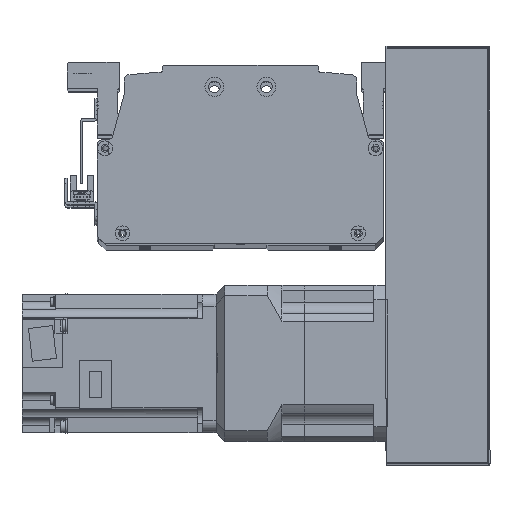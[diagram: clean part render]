
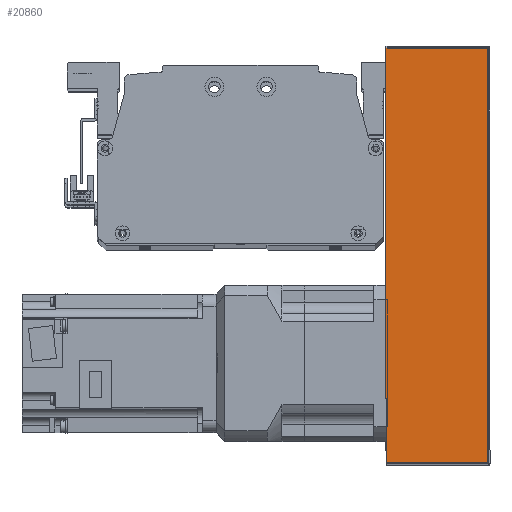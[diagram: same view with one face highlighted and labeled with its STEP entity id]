
A CAD part, top view. The second image highlights one B-rep face of the part: STEP entity #20860.
In plain terms, the highlighted planar face has unit normal (0, 0, 1) as drawn and (0, 1, 0) by its records, which use the part's own axes.
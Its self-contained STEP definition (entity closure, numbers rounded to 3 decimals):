
#562=PLANE('',#22744);
#1693=LINE('',#33185,#3353);
#1712=LINE('',#33269,#3372);
#1714=LINE('',#33279,#3374);
#1715=LINE('',#33281,#3375);
#3353=VECTOR('',#27002,10.);
#3372=VECTOR('',#27115,10.);
#3374=VECTOR('',#27129,10.);
#3375=VECTOR('',#27132,10.);
#5391=FACE_OUTER_BOUND('',#6851,.T.);
#6851=EDGE_LOOP('',(#16372,#16373,#16374,#16375));
#9747=VERTEX_POINT('',#33182);
#9748=VERTEX_POINT('',#33184);
#9765=VERTEX_POINT('',#33263);
#9768=VERTEX_POINT('',#33275);
#12119=EDGE_CURVE('',#9748,#9747,#1693,.T.);
#12162=EDGE_CURVE('',#9765,#9748,#1712,.T.);
#12167=EDGE_CURVE('',#9747,#9768,#1714,.T.);
#12168=EDGE_CURVE('',#9768,#9765,#1715,.T.);
#16372=ORIENTED_EDGE('',*,*,#12162,.T.);
#16373=ORIENTED_EDGE('',*,*,#12119,.T.);
#16374=ORIENTED_EDGE('',*,*,#12167,.T.);
#16375=ORIENTED_EDGE('',*,*,#12168,.T.);
#20860=ADVANCED_FACE('',(#5391),#562,.F.);
#22744=AXIS2_PLACEMENT_3D('',#33288,#27141,#27142);
#27002=DIRECTION('',(-1.,0.,0.));
#27115=DIRECTION('',(0.,0.,-1.));
#27129=DIRECTION('',(0.,0.,1.));
#27132=DIRECTION('',(1.,0.,0.));
#27141=DIRECTION('center_axis',(0.,-1.,0.));
#27142=DIRECTION('ref_axis',(-1.,0.,0.));
#33182=CARTESIAN_POINT('',(-120.,51.,-30.));
#33184=CARTESIAN_POINT('',(120.,51.,-30.));
#33185=CARTESIAN_POINT('',(-121.,51.,-30.));
#33263=CARTESIAN_POINT('',(120.,51.,29.));
#33269=CARTESIAN_POINT('',(120.,51.,0.));
#33275=CARTESIAN_POINT('',(-120.,51.,29.));
#33279=CARTESIAN_POINT('',(-120.,51.,0.));
#33281=CARTESIAN_POINT('',(60.5,51.,29.));
#33288=CARTESIAN_POINT('Origin',(121.,51.,0.));
